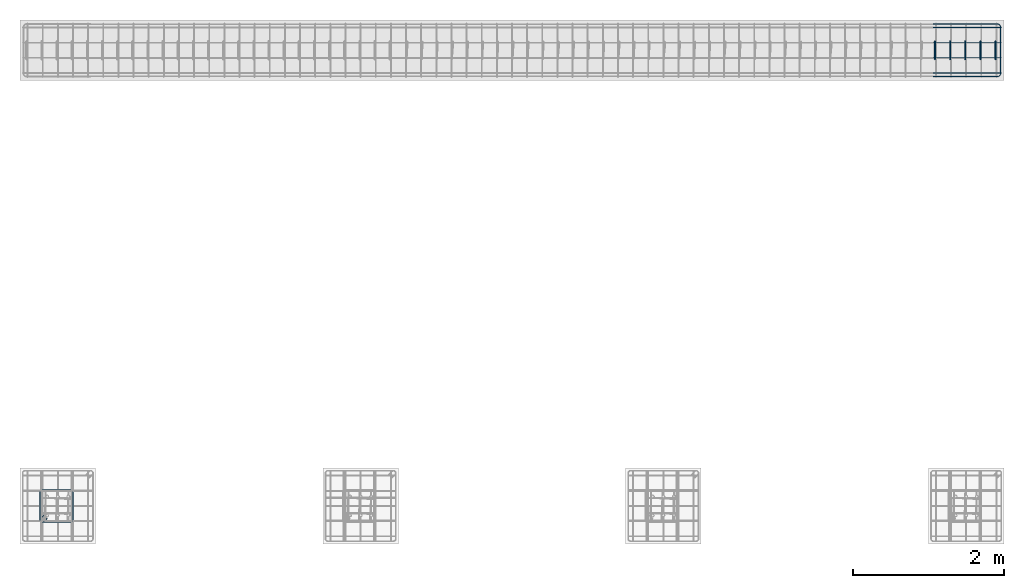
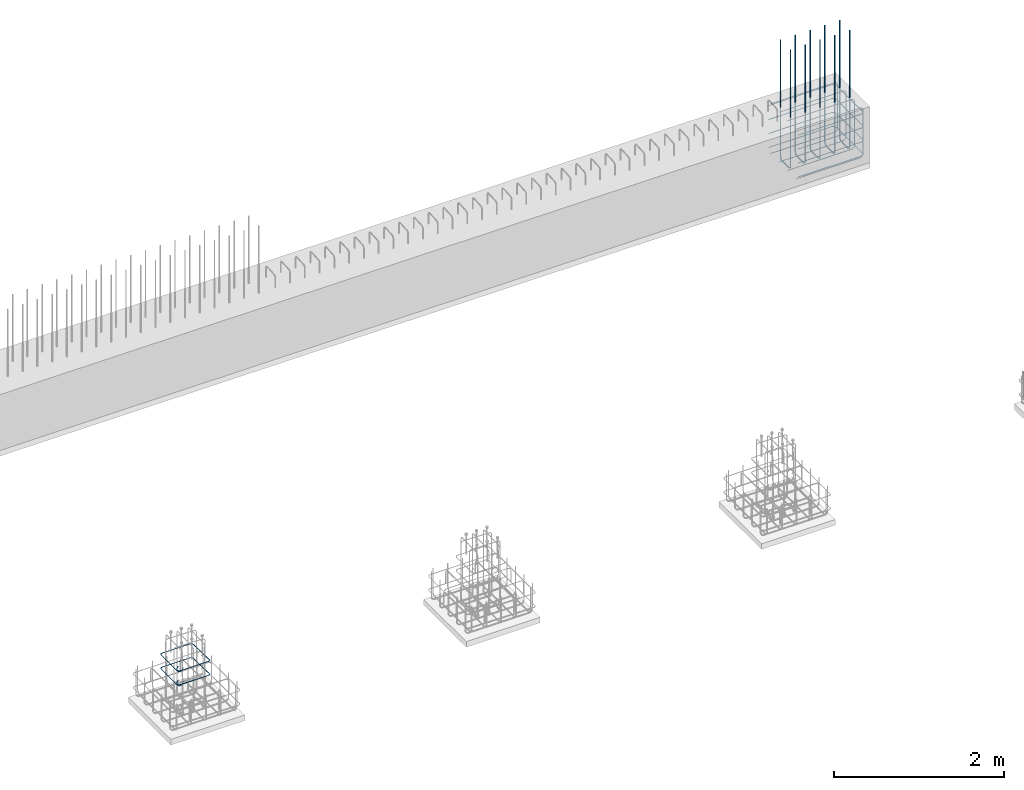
# One storey, part 11 of 12: 4 reinforcing bars.
"""IFC4X3_ADD2 building model written with IfcOpenShell, lengths in millimetres."""

from ifc_helpers import new_model, entity, si_unit, converted_unit, derived_unit, direction, frame, origin, place, context, subcontext, project, spatial, material, type_object, element, save


model = new_model("IFC4X3_ADD2")

# Units and contexts
model_context = context("Model", 3, precision=0.01, world=origin(), true_north=direction((6.123233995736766e-17, 1.0)))
plan_context = context("Plan", 3, precision=0.01, world=origin(), true_north=direction((6.123233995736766e-17, 1.0)))
body_context = subcontext(model_context, "Body", "Model", "MODEL_VIEW")
ifc_project = project(units=[si_unit("LENGTHUNIT", "METRE", prefix="MILLI"), converted_unit("PLANEANGLEUNIT", "DEGREE", entity("IfcPlaneAngleMeasure", 0.017453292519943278), si_unit("PLANEANGLEUNIT", "RADIAN"), dimensions=[0, 0, 0, 0, 0, 0, 0]), si_unit("AREAUNIT", "SQUARE_METRE"), si_unit("VOLUMEUNIT", "CUBIC_METRE"), derived_unit("THERMALTRANSMITTANCEUNIT", [(si_unit("MASSUNIT", "GRAM", prefix="KILO"), 1), (si_unit("THERMODYNAMICTEMPERATUREUNIT", "KELVIN"), -1), (si_unit("TIMEUNIT", "SECOND"), -3)]), derived_unit("USERDEFINED", [(si_unit("MASSUNIT", "GRAM", prefix="KILO"), 1), (si_unit("THERMODYNAMICTEMPERATUREUNIT", "KELVIN"), -1), (si_unit("TIMEUNIT", "SECOND"), -2)]), derived_unit("THERMALRESISTANCEUNIT", [(si_unit("MASSUNIT", "GRAM", prefix="KILO"), -1), (si_unit("TIMEUNIT", "SECOND"), 3), (si_unit("THERMODYNAMICTEMPERATUREUNIT", "KELVIN"), 1)]), si_unit("MASSUNIT", "GRAM", prefix="KILO"), derived_unit("MOMENTOFINERTIAUNIT", [(si_unit("LENGTHUNIT", "METRE"), 4)]), derived_unit("LINEARFORCEUNIT", [(si_unit("MASSUNIT", "GRAM", prefix="KILO"), 1), (si_unit("TIMEUNIT", "SECOND"), -2)]), derived_unit("WARPINGCONSTANTUNIT", [(si_unit("LENGTHUNIT", "METRE"), 6)]), si_unit("PRESSUREUNIT", "PASCAL"), derived_unit("MASSDENSITYUNIT", [(si_unit("MASSUNIT", "GRAM", prefix="KILO"), 1), (si_unit("LENGTHUNIT", "METRE"), -3)]), derived_unit("MODULUSOFELASTICITYUNIT", [(si_unit("MASSUNIT", "GRAM", prefix="KILO"), 1), (si_unit("TIMEUNIT", "SECOND"), -2), (si_unit("LENGTHUNIT", "METRE"), -1)]), derived_unit("THERMALEXPANSIONCOEFFICIENTUNIT", [(si_unit("THERMODYNAMICTEMPERATUREUNIT", "KELVIN"), -1)]), derived_unit("VAPORPERMEABILITYUNIT", [(si_unit("LENGTHUNIT", "METRE"), -1), (si_unit("TIMEUNIT", "SECOND"), 1)]), derived_unit("USERDEFINED", [(si_unit("MASSUNIT", "GRAM", prefix="KILO"), 1), (si_unit("TIMEUNIT", "SECOND"), -3), (si_unit("LENGTHUNIT", "METRE"), 3), (si_unit("ELECTRICCURRENTUNIT", "AMPERE"), -2)]), derived_unit("SPECIFICHEATCAPACITYUNIT", [(si_unit("THERMODYNAMICTEMPERATUREUNIT", "KELVIN"), -1), (si_unit("TIMEUNIT", "SECOND"), -2), (si_unit("LENGTHUNIT", "METRE"), 2)]), derived_unit("THERMALCONDUCTANCEUNIT", [(si_unit("MASSUNIT", "GRAM", prefix="KILO"), 1), (si_unit("THERMODYNAMICTEMPERATUREUNIT", "KELVIN"), -1), (si_unit("TIMEUNIT", "SECOND"), -3), (si_unit("LENGTHUNIT", "METRE"), 1)])], contexts=[model_context, plan_context])

# Site, building, storey
site_placement = place(None, origin())
site = spatial("IfcSite", under=ifc_project, at=site_placement, Name="Default", CompositionType="ELEMENT")
building_placement = place(site_placement, origin())
building = spatial("IfcBuilding", under=site, at=building_placement, Name="Complex structure", CompositionType="ELEMENT")
storey_placement = place(building_placement, frame((0.0, 0.0, -1200.0)))
storey = spatial("IfcBuildingStorey", under=building, at=storey_placement, Name="Level -03", CompositionType="ELEMENT", Elevation=-1200.0)

# Reinforcing bars
ifc_material = material(Name="Steel Rebar - B500A, B or C", Category="Unassigned")
reinforcing_bar_type_1 = type_object("IfcReinforcingBarType", Name="Rebar Bar:10mm", PredefinedType="NOTDEFINED")
reinforcing_bar_1_placement = place(storey_placement, origin())
ifc_direction_1 = entity("IfcDirection", [0.0, 0.0, -1.0])
ifc_direction_2 = entity("IfcDirection", [0.0, 0.0, -1.0])
element("IfcReinforcingBar", 1, at=reinforcing_bar_1_placement, inside=storey, type_object=reinforcing_bar_type_1, material=ifc_material, Name="Rebar Bar:10mm : Shape 52", ObjectType="Rebar Bar:10mm", context=body_context, shape_type="AdvancedSweptSolid", body=[
    entity("IfcSweptDiskSolid", entity("IfcCompositeCurve", [entity("IfcCompositeCurveSegment", "CONTINUOUS", True, entity("IfcPolyline", [entity("IfcCartesianPoint", [-13286.518887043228, -1446.6535005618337, 700.0]), entity("IfcCartesianPoint", [-13328.945293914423, -1489.0799074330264, 700.0])])), entity("IfcCompositeCurveSegment", "CONTINUOUS", True, entity("IfcTrimmedCurve", entity("IfcCircle", entity("IfcAxis2Placement3D", entity("IfcCartesianPoint", [-13350.15849735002, -1467.8667039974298, 700.0]), ifc_direction_1, entity("IfcDirection", [-0.7071067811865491, -0.7071067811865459, 0.0])), 30.000000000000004), [entity("IfcParameterValue", 269.9999999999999)], [entity("IfcParameterValue", 44.99999999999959)], True, "PARAMETER")), entity("IfcCompositeCurveSegment", "CONTINUOUS", True, entity("IfcPolyline", [entity("IfcCartesianPoint", [-13380.15849735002, -1467.8667039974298, 700.0]), entity("IfcCartesianPoint", [-13380.15849735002, -1097.8667039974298, 700.0])])), entity("IfcCompositeCurveSegment", "CONTINUOUS", True, entity("IfcTrimmedCurve", entity("IfcCircle", entity("IfcAxis2Placement3D", entity("IfcCartesianPoint", [-13350.15849735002, -1097.8667039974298, 700.0]), ifc_direction_1, entity("IfcDirection", [0.0, 1.0, 0.0])), 30.000000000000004), [entity("IfcParameterValue", 269.9999999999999)], [entity("IfcParameterValue", 360.00000000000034)], True, "PARAMETER")), entity("IfcCompositeCurveSegment", "CONTINUOUS", True, entity("IfcPolyline", [entity("IfcCartesianPoint", [-13350.15849735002, -1067.8667039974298, 700.0]), entity("IfcCartesianPoint", [-12976.521550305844, -1067.8667039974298, 700.0])])), entity("IfcCompositeCurveSegment", "CONTINUOUS", True, entity("IfcTrimmedCurve", entity("IfcCircle", entity("IfcAxis2Placement3D", entity("IfcCartesianPoint", [-12976.521550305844, -1097.8585947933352, 700.697485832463]), entity("IfcDirection", [0.0, -0.023249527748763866, -0.9997296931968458]), entity("IfcDirection", [1.0, 0.0, 0.0])), 30.000000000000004), [entity("IfcParameterValue", 269.9999999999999)], [entity("IfcParameterValue", 360.00000000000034)], True, "PARAMETER")), entity("IfcCompositeCurveSegment", "CONTINUOUS", True, entity("IfcPolyline", [entity("IfcCartesianPoint", [-12946.521550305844, -1097.8585947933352, 700.697485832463]), entity("IfcCartesianPoint", [-12946.521550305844, -1467.8748132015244, 709.3025141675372])])), entity("IfcCompositeCurveSegment", "CONTINUOUS", True, entity("IfcTrimmedCurve", entity("IfcCircle", entity("IfcAxis2Placement3D", entity("IfcCartesianPoint", [-12976.521550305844, -1467.8748132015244, 709.3025141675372]), entity("IfcDirection", [0.0, -0.023249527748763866, -0.9997296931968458]), entity("IfcDirection", [0.0, -0.9997296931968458, 0.023249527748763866])), 30.000000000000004), [entity("IfcParameterValue", 269.9999999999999)], [entity("IfcParameterValue", 360.00000000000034)], True, "PARAMETER")), entity("IfcCompositeCurveSegment", "CONTINUOUS", True, entity("IfcPolyline", [entity("IfcCartesianPoint", [-12976.521550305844, -1497.8667039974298, 710.0]), entity("IfcCartesianPoint", [-13350.15849735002, -1497.8667039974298, 710.0])])), entity("IfcCompositeCurveSegment", "CONTINUOUS", True, entity("IfcTrimmedCurve", entity("IfcCircle", entity("IfcAxis2Placement3D", entity("IfcCartesianPoint", [-13350.15849735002, -1467.8667039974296, 710.0]), ifc_direction_1, entity("IfcDirection", [-1.0, 0.0, 0.0])), 30.000000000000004), [entity("IfcParameterValue", 269.9999999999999)], [entity("IfcParameterValue", 44.99999999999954)], True, "PARAMETER")), entity("IfcCompositeCurveSegment", "CONTINUOUS", True, entity("IfcPolyline", [entity("IfcCartesianPoint", [-13371.371700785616, -1446.6535005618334, 710.0]), entity("IfcCartesianPoint", [-13328.945293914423, -1404.2270936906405, 710.0])]))], False), 5.0, None, 0.0, 546.0000000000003),
    entity("IfcSweptDiskSolid", entity("IfcCompositeCurve", [entity("IfcCompositeCurveSegment", "CONTINUOUS", True, entity("IfcPolyline", [entity("IfcCartesianPoint", [-13286.518887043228, -1446.6535005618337, 500.0]), entity("IfcCartesianPoint", [-13328.945293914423, -1489.0799074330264, 500.0])])), entity("IfcCompositeCurveSegment", "CONTINUOUS", True, entity("IfcTrimmedCurve", entity("IfcCircle", entity("IfcAxis2Placement3D", entity("IfcCartesianPoint", [-13350.15849735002, -1467.8667039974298, 500.0]), ifc_direction_2, entity("IfcDirection", [-0.7071067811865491, -0.7071067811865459, 0.0])), 30.000000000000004), [entity("IfcParameterValue", 269.9999999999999)], [entity("IfcParameterValue", 44.99999999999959)], True, "PARAMETER")), entity("IfcCompositeCurveSegment", "CONTINUOUS", True, entity("IfcPolyline", [entity("IfcCartesianPoint", [-13380.15849735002, -1467.8667039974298, 500.0]), entity("IfcCartesianPoint", [-13380.15849735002, -1097.8667039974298, 500.0])])), entity("IfcCompositeCurveSegment", "CONTINUOUS", True, entity("IfcTrimmedCurve", entity("IfcCircle", entity("IfcAxis2Placement3D", entity("IfcCartesianPoint", [-13350.15849735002, -1097.8667039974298, 500.0]), ifc_direction_2, entity("IfcDirection", [0.0, 1.0, 0.0])), 30.000000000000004), [entity("IfcParameterValue", 269.9999999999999)], [entity("IfcParameterValue", 360.00000000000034)], True, "PARAMETER")), entity("IfcCompositeCurveSegment", "CONTINUOUS", True, entity("IfcPolyline", [entity("IfcCartesianPoint", [-13350.15849735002, -1067.8667039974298, 500.0]), entity("IfcCartesianPoint", [-12976.521550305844, -1067.8667039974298, 500.0])])), entity("IfcCompositeCurveSegment", "CONTINUOUS", True, entity("IfcTrimmedCurve", entity("IfcCircle", entity("IfcAxis2Placement3D", entity("IfcCartesianPoint", [-12976.521550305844, -1097.8585947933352, 500.69748583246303]), entity("IfcDirection", [0.0, -0.023249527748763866, -0.9997296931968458]), entity("IfcDirection", [1.0, 0.0, 0.0])), 30.000000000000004), [entity("IfcParameterValue", 269.9999999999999)], [entity("IfcParameterValue", 360.00000000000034)], True, "PARAMETER")), entity("IfcCompositeCurveSegment", "CONTINUOUS", True, entity("IfcPolyline", [entity("IfcCartesianPoint", [-12946.521550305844, -1097.8585947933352, 500.69748583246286]), entity("IfcCartesianPoint", [-12946.521550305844, -1467.8748132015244, 509.3025141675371])])), entity("IfcCompositeCurveSegment", "CONTINUOUS", True, entity("IfcTrimmedCurve", entity("IfcCircle", entity("IfcAxis2Placement3D", entity("IfcCartesianPoint", [-12976.521550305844, -1467.8748132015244, 509.3025141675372]), entity("IfcDirection", [0.0, -0.023249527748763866, -0.9997296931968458]), entity("IfcDirection", [0.0, -0.9997296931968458, 0.023249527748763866])), 30.000000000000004), [entity("IfcParameterValue", 269.9999999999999)], [entity("IfcParameterValue", 360.00000000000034)], True, "PARAMETER")), entity("IfcCompositeCurveSegment", "CONTINUOUS", True, entity("IfcPolyline", [entity("IfcCartesianPoint", [-12976.521550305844, -1497.8667039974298, 510.0]), entity("IfcCartesianPoint", [-13350.15849735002, -1497.8667039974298, 510.0])])), entity("IfcCompositeCurveSegment", "CONTINUOUS", True, entity("IfcTrimmedCurve", entity("IfcCircle", entity("IfcAxis2Placement3D", entity("IfcCartesianPoint", [-13350.15849735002, -1467.8667039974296, 510.0]), ifc_direction_2, entity("IfcDirection", [-1.0, 0.0, 0.0])), 30.000000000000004), [entity("IfcParameterValue", 269.9999999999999)], [entity("IfcParameterValue", 44.99999999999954)], True, "PARAMETER")), entity("IfcCompositeCurveSegment", "CONTINUOUS", True, entity("IfcPolyline", [entity("IfcCartesianPoint", [-13371.371700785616, -1446.6535005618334, 510.0]), entity("IfcCartesianPoint", [-13328.945293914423, -1404.2270936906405, 510.0])]))], False), 5.0, None, 0.0, 546.0000000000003),
])
reinforcing_bar_2_placement = place(storey_placement, origin())
ifc_direction_3 = entity("IfcDirection", [0.0, -1.0, 0.0])
ifc_direction_4 = entity("IfcDirection", [0.0, -1.0, 0.0])
ifc_direction_5 = entity("IfcDirection", [0.0, -1.0, 0.0])
ifc_direction_6 = entity("IfcDirection", [0.0, -1.0, 0.0])
element("IfcReinforcingBar", 2, at=reinforcing_bar_2_placement, inside=storey, type_object=reinforcing_bar_type_1, material=ifc_material, Name="Rebar Bar:10mm : Shape 21", ObjectType="Rebar Bar:10mm", context=body_context, shape_type="AdvancedSweptSolid", body=[
    entity("IfcSweptDiskSolid", entity("IfcCompositeCurve", [entity("IfcCompositeCurveSegment", "CONTINUOUS", True, entity("IfcPolyline", [entity("IfcCartesianPoint", [-1585.2215503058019, 5037.133296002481, 33.12656114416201]), entity("IfcCartesianPoint", [-725.2215503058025, 5037.133296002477, 33.12656114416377])])), entity("IfcCompositeCurveSegment", "CONTINUOUS", True, entity("IfcTrimmedCurve", entity("IfcCircle", entity("IfcAxis2Placement3D", entity("IfcCartesianPoint", [-725.2215503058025, 5037.133296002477, 78.12656114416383]), ifc_direction_3, entity("IfcDirection", [1.0, 0.0, 0.0])), 45.0), [entity("IfcParameterValue", 269.9999999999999)], [entity("IfcParameterValue", 360.00000000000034)], True, "PARAMETER")), entity("IfcCompositeCurveSegment", "CONTINUOUS", True, entity("IfcPolyline", [entity("IfcCartesianPoint", [-680.2215503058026, 5037.133296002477, 78.12656114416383]), entity("IfcCartesianPoint", [-680.2215503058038, 5037.1332960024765, 700.0])])), entity("IfcCompositeCurveSegment", "CONTINUOUS", True, entity("IfcTrimmedCurve", entity("IfcCircle", entity("IfcAxis2Placement3D", entity("IfcCartesianPoint", [-725.2215503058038, 5037.1332960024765, 700.0]), ifc_direction_3, entity("IfcDirection", [0.0, 0.0, 1.0])), 45.0), [entity("IfcParameterValue", 269.9999999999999)], [entity("IfcParameterValue", 360.00000000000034)], True, "PARAMETER")), entity("IfcCompositeCurveSegment", "CONTINUOUS", True, entity("IfcPolyline", [entity("IfcCartesianPoint", [-725.2215503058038, 5037.1332960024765, 745.0]), entity("IfcCartesianPoint", [-1585.2215503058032, 5037.13329600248, 745.0])]))], False), 5.0, None, 0.0, 183.00000000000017),
    entity("IfcSweptDiskSolid", entity("IfcCompositeCurve", [entity("IfcCompositeCurveSegment", "CONTINUOUS", True, entity("IfcPolyline", [entity("IfcCartesianPoint", [-1585.221550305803, 4837.133296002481, 33.126561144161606]), entity("IfcCartesianPoint", [-725.2215503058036, 4837.133296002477, 33.12656114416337])])), entity("IfcCompositeCurveSegment", "CONTINUOUS", True, entity("IfcTrimmedCurve", entity("IfcCircle", entity("IfcAxis2Placement3D", entity("IfcCartesianPoint", [-725.2215503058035, 4837.133296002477, 78.12656114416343]), ifc_direction_4, entity("IfcDirection", [1.0, 0.0, 0.0])), 45.0), [entity("IfcParameterValue", 269.9999999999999)], [entity("IfcParameterValue", 360.00000000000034)], True, "PARAMETER")), entity("IfcCompositeCurveSegment", "CONTINUOUS", True, entity("IfcPolyline", [entity("IfcCartesianPoint", [-680.2215503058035, 4837.133296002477, 78.12656114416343]), entity("IfcCartesianPoint", [-680.2215503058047, 4837.1332960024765, 700.0])])), entity("IfcCompositeCurveSegment", "CONTINUOUS", True, entity("IfcTrimmedCurve", entity("IfcCircle", entity("IfcAxis2Placement3D", entity("IfcCartesianPoint", [-725.2215503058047, 4837.1332960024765, 700.0]), ifc_direction_4, entity("IfcDirection", [0.0, 0.0, 1.0])), 45.0), [entity("IfcParameterValue", 269.9999999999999)], [entity("IfcParameterValue", 360.00000000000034)], True, "PARAMETER")), entity("IfcCompositeCurveSegment", "CONTINUOUS", True, entity("IfcPolyline", [entity("IfcCartesianPoint", [-725.2215503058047, 4837.1332960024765, 745.0]), entity("IfcCartesianPoint", [-1585.2215503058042, 4837.13329600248, 745.0])]))], False), 5.0, None, 0.0, 183.00000000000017),
    entity("IfcSweptDiskSolid", entity("IfcCompositeCurve", [entity("IfcCompositeCurveSegment", "CONTINUOUS", True, entity("IfcPolyline", [entity("IfcCartesianPoint", [-1585.2215503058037, 4637.133296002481, 33.1265611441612]), entity("IfcCartesianPoint", [-725.2215503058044, 4637.133296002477, 33.12656114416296])])), entity("IfcCompositeCurveSegment", "CONTINUOUS", True, entity("IfcTrimmedCurve", entity("IfcCircle", entity("IfcAxis2Placement3D", entity("IfcCartesianPoint", [-725.2215503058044, 4637.133296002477, 78.12656114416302]), ifc_direction_5, entity("IfcDirection", [1.0, 0.0, 0.0])), 45.0), [entity("IfcParameterValue", 269.9999999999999)], [entity("IfcParameterValue", 360.00000000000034)], True, "PARAMETER")), entity("IfcCompositeCurveSegment", "CONTINUOUS", True, entity("IfcPolyline", [entity("IfcCartesianPoint", [-680.2215503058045, 4637.133296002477, 78.12656114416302]), entity("IfcCartesianPoint", [-680.2215503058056, 4637.133296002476, 700.0])])), entity("IfcCompositeCurveSegment", "CONTINUOUS", True, entity("IfcTrimmedCurve", entity("IfcCircle", entity("IfcAxis2Placement3D", entity("IfcCartesianPoint", [-725.2215503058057, 4637.133296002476, 700.0]), ifc_direction_5, entity("IfcDirection", [0.0, 0.0, 1.0])), 45.0), [entity("IfcParameterValue", 269.9999999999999)], [entity("IfcParameterValue", 360.00000000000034)], True, "PARAMETER")), entity("IfcCompositeCurveSegment", "CONTINUOUS", True, entity("IfcPolyline", [entity("IfcCartesianPoint", [-725.2215503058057, 4637.133296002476, 745.0]), entity("IfcCartesianPoint", [-1585.221550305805, 4637.13329600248, 745.0])]))], False), 5.0, None, 0.0, 183.00000000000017),
    entity("IfcSweptDiskSolid", entity("IfcCompositeCurve", [entity("IfcCompositeCurveSegment", "CONTINUOUS", True, entity("IfcPolyline", [entity("IfcCartesianPoint", [-1585.2215503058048, 4437.133296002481, 33.12656114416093]), entity("IfcCartesianPoint", [-725.2215503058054, 4437.133296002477, 33.12656114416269])])), entity("IfcCompositeCurveSegment", "CONTINUOUS", True, entity("IfcTrimmedCurve", entity("IfcCircle", entity("IfcAxis2Placement3D", entity("IfcCartesianPoint", [-725.2215503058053, 4437.133296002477, 78.12656114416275]), ifc_direction_6, entity("IfcDirection", [1.0, 0.0, 0.0])), 45.0), [entity("IfcParameterValue", 269.9999999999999)], [entity("IfcParameterValue", 360.00000000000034)], True, "PARAMETER")), entity("IfcCompositeCurveSegment", "CONTINUOUS", True, entity("IfcPolyline", [entity("IfcCartesianPoint", [-680.2215503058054, 4437.133296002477, 78.12656114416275]), entity("IfcCartesianPoint", [-680.2215503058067, 4437.133296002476, 700.0])])), entity("IfcCompositeCurveSegment", "CONTINUOUS", True, entity("IfcTrimmedCurve", entity("IfcCircle", entity("IfcAxis2Placement3D", entity("IfcCartesianPoint", [-725.2215503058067, 4437.133296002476, 700.0]), ifc_direction_6, entity("IfcDirection", [0.0, 0.0, 1.0])), 45.0), [entity("IfcParameterValue", 269.9999999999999)], [entity("IfcParameterValue", 360.00000000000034)], True, "PARAMETER")), entity("IfcCompositeCurveSegment", "CONTINUOUS", True, entity("IfcPolyline", [entity("IfcCartesianPoint", [-725.2215503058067, 4437.133296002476, 745.0]), entity("IfcCartesianPoint", [-1585.2215503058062, 4437.13329600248, 745.0])]))], False), 5.0, None, 0.0, 183.00000000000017),
])
reinforcing_bar_3_placement = place(storey_placement, origin())
ifc_direction_7 = entity("IfcDirection", [0.0, 0.0, -1.0])
ifc_direction_8 = entity("IfcDirection", [0.0, 0.0, -1.0])
ifc_direction_9 = entity("IfcDirection", [0.0, 0.0, -1.0])
ifc_direction_10 = entity("IfcDirection", [0.0, 0.0, -1.0])
element("IfcReinforcingBar", 3, at=reinforcing_bar_3_placement, inside=storey, type_object=reinforcing_bar_type_1, material=ifc_material, Name="Rebar Bar:10mm : Shape 21", ObjectType="Rebar Bar:10mm", context=body_context, shape_type="AdvancedSweptSolid", body=[
    entity("IfcSweptDiskSolid", entity("IfcCompositeCurve", [entity("IfcCompositeCurveSegment", "CONTINUOUS", True, entity("IfcPolyline", [entity("IfcCartesianPoint", [-1585.2215503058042, 5085.133296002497, 690.0]), entity("IfcCartesianPoint", [-735.2215503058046, 5085.133296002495, 690.0])])), entity("IfcCompositeCurveSegment", "CONTINUOUS", True, entity("IfcTrimmedCurve", entity("IfcCircle", entity("IfcAxis2Placement3D", entity("IfcCartesianPoint", [-735.221550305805, 5040.133296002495, 690.0]), ifc_direction_7, entity("IfcDirection", [1.0, 0.0, 0.0])), 45.0), [entity("IfcParameterValue", 269.9999999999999)], [entity("IfcParameterValue", 360.00000000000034)], True, "PARAMETER")), entity("IfcCompositeCurveSegment", "CONTINUOUS", True, entity("IfcPolyline", [entity("IfcCartesianPoint", [-690.2215503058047, 5040.133296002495, 690.0]), entity("IfcCartesianPoint", [-690.2215503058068, 4434.133296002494, 690.0])])), entity("IfcCompositeCurveSegment", "CONTINUOUS", True, entity("IfcTrimmedCurve", entity("IfcCircle", entity("IfcAxis2Placement3D", entity("IfcCartesianPoint", [-735.2215503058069, 4434.133296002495, 690.0]), ifc_direction_7, entity("IfcDirection", [0.0, -1.0, 0.0])), 45.0), [entity("IfcParameterValue", 269.9999999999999)], [entity("IfcParameterValue", 360.00000000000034)], True, "PARAMETER")), entity("IfcCompositeCurveSegment", "CONTINUOUS", True, entity("IfcPolyline", [entity("IfcCartesianPoint", [-735.2215503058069, 4389.133296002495, 690.0]), entity("IfcCartesianPoint", [-1585.2215503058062, 4389.133296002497, 690.0])]))], False), 5.0, None, 0.0, 183.00000000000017),
    entity("IfcSweptDiskSolid", entity("IfcCompositeCurve", [entity("IfcCompositeCurveSegment", "CONTINUOUS", True, entity("IfcPolyline", [entity("IfcCartesianPoint", [-1585.2215503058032, 5085.133296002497, 490.0]), entity("IfcCartesianPoint", [-735.2215503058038, 5085.133296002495, 490.0])])), entity("IfcCompositeCurveSegment", "CONTINUOUS", True, entity("IfcTrimmedCurve", entity("IfcCircle", entity("IfcAxis2Placement3D", entity("IfcCartesianPoint", [-735.2215503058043, 5040.133296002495, 490.0]), ifc_direction_8, entity("IfcDirection", [1.0, 0.0, 0.0])), 45.0), [entity("IfcParameterValue", 269.9999999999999)], [entity("IfcParameterValue", 360.00000000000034)], True, "PARAMETER")), entity("IfcCompositeCurveSegment", "CONTINUOUS", True, entity("IfcPolyline", [entity("IfcCartesianPoint", [-690.221550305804, 5040.133296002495, 490.0]), entity("IfcCartesianPoint", [-690.2215503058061, 4434.133296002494, 490.0])])), entity("IfcCompositeCurveSegment", "CONTINUOUS", True, entity("IfcTrimmedCurve", entity("IfcCircle", entity("IfcAxis2Placement3D", entity("IfcCartesianPoint", [-735.2215503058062, 4434.133296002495, 490.0]), ifc_direction_8, entity("IfcDirection", [0.0, -1.0, 0.0])), 45.0), [entity("IfcParameterValue", 269.9999999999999)], [entity("IfcParameterValue", 360.00000000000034)], True, "PARAMETER")), entity("IfcCompositeCurveSegment", "CONTINUOUS", True, entity("IfcPolyline", [entity("IfcCartesianPoint", [-735.2215503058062, 4389.133296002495, 490.0]), entity("IfcCartesianPoint", [-1585.2215503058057, 4389.133296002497, 490.0])]))], False), 5.0, None, 0.0, 183.00000000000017),
    entity("IfcSweptDiskSolid", entity("IfcCompositeCurve", [entity("IfcCompositeCurveSegment", "CONTINUOUS", True, entity("IfcPolyline", [entity("IfcCartesianPoint", [-1585.2215503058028, 5085.133296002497, 290.0]), entity("IfcCartesianPoint", [-735.2215503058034, 5085.133296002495, 290.0])])), entity("IfcCompositeCurveSegment", "CONTINUOUS", True, entity("IfcTrimmedCurve", entity("IfcCircle", entity("IfcAxis2Placement3D", entity("IfcCartesianPoint", [-735.2215503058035, 5040.133296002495, 290.0]), ifc_direction_9, entity("IfcDirection", [1.0, 0.0, 0.0])), 45.0), [entity("IfcParameterValue", 269.9999999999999)], [entity("IfcParameterValue", 360.00000000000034)], True, "PARAMETER")), entity("IfcCompositeCurveSegment", "CONTINUOUS", True, entity("IfcPolyline", [entity("IfcCartesianPoint", [-690.2215503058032, 5040.133296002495, 290.0]), entity("IfcCartesianPoint", [-690.2215503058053, 4434.133296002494, 290.0])])), entity("IfcCompositeCurveSegment", "CONTINUOUS", True, entity("IfcTrimmedCurve", entity("IfcCircle", entity("IfcAxis2Placement3D", entity("IfcCartesianPoint", [-735.2215503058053, 4434.133296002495, 290.0]), ifc_direction_9, entity("IfcDirection", [0.0, -1.0, 0.0])), 45.0), [entity("IfcParameterValue", 269.9999999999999)], [entity("IfcParameterValue", 360.00000000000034)], True, "PARAMETER")), entity("IfcCompositeCurveSegment", "CONTINUOUS", True, entity("IfcPolyline", [entity("IfcCartesianPoint", [-735.2215503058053, 4389.133296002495, 290.0]), entity("IfcCartesianPoint", [-1585.2215503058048, 4389.133296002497, 290.0])]))], False), 5.0, None, 0.0, 183.00000000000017),
    entity("IfcSweptDiskSolid", entity("IfcCompositeCurve", [entity("IfcCompositeCurveSegment", "CONTINUOUS", True, entity("IfcPolyline", [entity("IfcCartesianPoint", [-1585.2215503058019, 5085.133296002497, 90.0]), entity("IfcCartesianPoint", [-735.2215503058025, 5085.133296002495, 90.0])])), entity("IfcCompositeCurveSegment", "CONTINUOUS", True, entity("IfcTrimmedCurve", entity("IfcCircle", entity("IfcAxis2Placement3D", entity("IfcCartesianPoint", [-735.2215503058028, 5040.133296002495, 90.0]), ifc_direction_10, entity("IfcDirection", [1.0, 0.0, 0.0])), 45.0), [entity("IfcParameterValue", 269.9999999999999)], [entity("IfcParameterValue", 360.00000000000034)], True, "PARAMETER")), entity("IfcCompositeCurveSegment", "CONTINUOUS", True, entity("IfcPolyline", [entity("IfcCartesianPoint", [-690.2215503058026, 5040.133296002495, 90.0]), entity("IfcCartesianPoint", [-690.2215503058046, 4434.133296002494, 90.0])])), entity("IfcCompositeCurveSegment", "CONTINUOUS", True, entity("IfcTrimmedCurve", entity("IfcCircle", entity("IfcAxis2Placement3D", entity("IfcCartesianPoint", [-735.2215503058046, 4434.133296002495, 90.0]), ifc_direction_10, entity("IfcDirection", [0.0, -1.0, 0.0])), 45.0), [entity("IfcParameterValue", 269.9999999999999)], [entity("IfcParameterValue", 360.00000000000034)], True, "PARAMETER")), entity("IfcCompositeCurveSegment", "CONTINUOUS", True, entity("IfcPolyline", [entity("IfcCartesianPoint", [-735.2215503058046, 4389.133296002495, 90.0]), entity("IfcCartesianPoint", [-1585.2215503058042, 4389.133296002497, 90.0])]))], False), 5.0, None, 0.0, 183.00000000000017),
])
reinforcing_bar_type_2 = type_object("IfcReinforcingBarType", Name="Rebar Bar:16mm", PredefinedType="NOTDEFINED")
reinforcing_bar_4_placement = place(storey_placement, origin())
ifc_direction_11 = entity("IfcDirection", [1.0, 0.0, 0.0])
ifc_direction_12 = entity("IfcDirection", [1.0, 0.0, 0.0])
ifc_direction_13 = entity("IfcDirection", [1.0, 0.0, 0.0])
ifc_direction_14 = entity("IfcDirection", [1.0, 0.0, 0.0])
ifc_direction_15 = entity("IfcDirection", [1.0, 0.0, 0.0])
element("IfcReinforcingBar", 4, at=reinforcing_bar_4_placement, inside=storey, type_object=reinforcing_bar_type_2, material=ifc_material, Name="Rebar Bar:16mm : Shape 21", ObjectType="Rebar Bar:16mm", context=body_context, shape_type="AdvancedSweptSolid", body=[
    entity("IfcSweptDiskSolid", entity("IfcCompositeCurve", [entity("IfcCompositeCurveSegment", "CONTINUOUS", True, entity("IfcPolyline", [entity("IfcCartesianPoint", [-1556.2215503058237, 4620.133296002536, 1760.0]), entity("IfcCartesianPoint", [-1556.2215503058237, 4620.133296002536, 96.0])])), entity("IfcCompositeCurveSegment", "CONTINUOUS", True, entity("IfcTrimmedCurve", entity("IfcCircle", entity("IfcAxis2Placement3D", entity("IfcCartesianPoint", [-1556.2215503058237, 4668.133296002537, 96.0]), ifc_direction_11, entity("IfcDirection", [0.0, 0.0, -1.0])), 48.0), [entity("IfcParameterValue", 269.9999999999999)], [entity("IfcParameterValue", 360.00000000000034)], True, "PARAMETER")), entity("IfcCompositeCurveSegment", "CONTINUOUS", True, entity("IfcPolyline", [entity("IfcCartesianPoint", [-1556.2215503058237, 4668.133296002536, 48.0]), entity("IfcCartesianPoint", [-1556.2215503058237, 4806.133296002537, 48.0])])), entity("IfcCompositeCurveSegment", "CONTINUOUS", True, entity("IfcTrimmedCurve", entity("IfcCircle", entity("IfcAxis2Placement3D", entity("IfcCartesianPoint", [-1556.2215503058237, 4806.133296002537, 96.0]), ifc_direction_11, entity("IfcDirection", [0.0, 1.0, 0.0])), 48.0), [entity("IfcParameterValue", 269.9999999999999)], [entity("IfcParameterValue", 360.00000000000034)], True, "PARAMETER")), entity("IfcCompositeCurveSegment", "CONTINUOUS", True, entity("IfcPolyline", [entity("IfcCartesianPoint", [-1556.2215503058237, 4854.133296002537, 96.0]), entity("IfcCartesianPoint", [-1556.2215503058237, 4854.133296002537, 1760.0])]))], False), 8.0, None, 0.0, 183.00000000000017),
    entity("IfcSweptDiskSolid", entity("IfcCompositeCurve", [entity("IfcCompositeCurveSegment", "CONTINUOUS", True, entity("IfcPolyline", [entity("IfcCartesianPoint", [-1356.2215503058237, 4620.133296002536, 1760.0]), entity("IfcCartesianPoint", [-1356.2215503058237, 4620.133296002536, 96.0])])), entity("IfcCompositeCurveSegment", "CONTINUOUS", True, entity("IfcTrimmedCurve", entity("IfcCircle", entity("IfcAxis2Placement3D", entity("IfcCartesianPoint", [-1356.2215503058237, 4668.133296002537, 96.0]), ifc_direction_12, entity("IfcDirection", [0.0, 0.0, -1.0])), 48.0), [entity("IfcParameterValue", 269.9999999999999)], [entity("IfcParameterValue", 360.00000000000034)], True, "PARAMETER")), entity("IfcCompositeCurveSegment", "CONTINUOUS", True, entity("IfcPolyline", [entity("IfcCartesianPoint", [-1356.2215503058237, 4668.133296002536, 48.0]), entity("IfcCartesianPoint", [-1356.2215503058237, 4806.133296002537, 48.0])])), entity("IfcCompositeCurveSegment", "CONTINUOUS", True, entity("IfcTrimmedCurve", entity("IfcCircle", entity("IfcAxis2Placement3D", entity("IfcCartesianPoint", [-1356.2215503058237, 4806.133296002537, 96.0]), ifc_direction_12, entity("IfcDirection", [0.0, 1.0, 0.0])), 48.0), [entity("IfcParameterValue", 269.9999999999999)], [entity("IfcParameterValue", 360.00000000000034)], True, "PARAMETER")), entity("IfcCompositeCurveSegment", "CONTINUOUS", True, entity("IfcPolyline", [entity("IfcCartesianPoint", [-1356.2215503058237, 4854.133296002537, 96.0]), entity("IfcCartesianPoint", [-1356.2215503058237, 4854.133296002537, 1760.0])]))], False), 8.0, None, 0.0, 183.00000000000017),
    entity("IfcSweptDiskSolid", entity("IfcCompositeCurve", [entity("IfcCompositeCurveSegment", "CONTINUOUS", True, entity("IfcPolyline", [entity("IfcCartesianPoint", [-1156.2215503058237, 4620.133296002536, 1760.0]), entity("IfcCartesianPoint", [-1156.2215503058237, 4620.133296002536, 96.0])])), entity("IfcCompositeCurveSegment", "CONTINUOUS", True, entity("IfcTrimmedCurve", entity("IfcCircle", entity("IfcAxis2Placement3D", entity("IfcCartesianPoint", [-1156.2215503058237, 4668.133296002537, 96.0]), ifc_direction_13, entity("IfcDirection", [0.0, 0.0, -1.0])), 48.0), [entity("IfcParameterValue", 269.9999999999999)], [entity("IfcParameterValue", 360.00000000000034)], True, "PARAMETER")), entity("IfcCompositeCurveSegment", "CONTINUOUS", True, entity("IfcPolyline", [entity("IfcCartesianPoint", [-1156.2215503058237, 4668.133296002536, 48.0]), entity("IfcCartesianPoint", [-1156.2215503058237, 4806.133296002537, 48.0])])), entity("IfcCompositeCurveSegment", "CONTINUOUS", True, entity("IfcTrimmedCurve", entity("IfcCircle", entity("IfcAxis2Placement3D", entity("IfcCartesianPoint", [-1156.2215503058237, 4806.133296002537, 96.0]), ifc_direction_13, entity("IfcDirection", [0.0, 1.0, 0.0])), 48.0), [entity("IfcParameterValue", 269.9999999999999)], [entity("IfcParameterValue", 360.00000000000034)], True, "PARAMETER")), entity("IfcCompositeCurveSegment", "CONTINUOUS", True, entity("IfcPolyline", [entity("IfcCartesianPoint", [-1156.2215503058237, 4854.133296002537, 96.0]), entity("IfcCartesianPoint", [-1156.2215503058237, 4854.133296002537, 1760.0])]))], False), 8.0, None, 0.0, 183.00000000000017),
    entity("IfcSweptDiskSolid", entity("IfcCompositeCurve", [entity("IfcCompositeCurveSegment", "CONTINUOUS", True, entity("IfcPolyline", [entity("IfcCartesianPoint", [-956.2215503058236, 4620.133296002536, 1760.0]), entity("IfcCartesianPoint", [-956.2215503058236, 4620.133296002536, 96.0])])), entity("IfcCompositeCurveSegment", "CONTINUOUS", True, entity("IfcTrimmedCurve", entity("IfcCircle", entity("IfcAxis2Placement3D", entity("IfcCartesianPoint", [-956.2215503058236, 4668.133296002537, 96.0]), ifc_direction_14, entity("IfcDirection", [0.0, 0.0, -1.0])), 48.0), [entity("IfcParameterValue", 269.9999999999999)], [entity("IfcParameterValue", 360.00000000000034)], True, "PARAMETER")), entity("IfcCompositeCurveSegment", "CONTINUOUS", True, entity("IfcPolyline", [entity("IfcCartesianPoint", [-956.2215503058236, 4668.133296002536, 48.0]), entity("IfcCartesianPoint", [-956.2215503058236, 4806.133296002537, 48.0])])), entity("IfcCompositeCurveSegment", "CONTINUOUS", True, entity("IfcTrimmedCurve", entity("IfcCircle", entity("IfcAxis2Placement3D", entity("IfcCartesianPoint", [-956.2215503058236, 4806.133296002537, 96.0]), ifc_direction_14, entity("IfcDirection", [0.0, 1.0, 0.0])), 48.0), [entity("IfcParameterValue", 269.9999999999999)], [entity("IfcParameterValue", 360.00000000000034)], True, "PARAMETER")), entity("IfcCompositeCurveSegment", "CONTINUOUS", True, entity("IfcPolyline", [entity("IfcCartesianPoint", [-956.2215503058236, 4854.133296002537, 96.0]), entity("IfcCartesianPoint", [-956.2215503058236, 4854.133296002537, 1760.0])]))], False), 8.0, None, 0.0, 183.00000000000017),
    entity("IfcSweptDiskSolid", entity("IfcCompositeCurve", [entity("IfcCompositeCurveSegment", "CONTINUOUS", True, entity("IfcPolyline", [entity("IfcCartesianPoint", [-756.2215503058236, 4620.133296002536, 1760.0]), entity("IfcCartesianPoint", [-756.2215503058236, 4620.133296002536, 96.0])])), entity("IfcCompositeCurveSegment", "CONTINUOUS", True, entity("IfcTrimmedCurve", entity("IfcCircle", entity("IfcAxis2Placement3D", entity("IfcCartesianPoint", [-756.2215503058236, 4668.133296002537, 96.0]), ifc_direction_15, entity("IfcDirection", [0.0, 0.0, -1.0])), 48.0), [entity("IfcParameterValue", 269.9999999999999)], [entity("IfcParameterValue", 360.00000000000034)], True, "PARAMETER")), entity("IfcCompositeCurveSegment", "CONTINUOUS", True, entity("IfcPolyline", [entity("IfcCartesianPoint", [-756.2215503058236, 4668.133296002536, 48.0]), entity("IfcCartesianPoint", [-756.2215503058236, 4806.133296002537, 48.0])])), entity("IfcCompositeCurveSegment", "CONTINUOUS", True, entity("IfcTrimmedCurve", entity("IfcCircle", entity("IfcAxis2Placement3D", entity("IfcCartesianPoint", [-756.2215503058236, 4806.133296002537, 96.0]), ifc_direction_15, entity("IfcDirection", [0.0, 1.0, 0.0])), 48.0), [entity("IfcParameterValue", 269.9999999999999)], [entity("IfcParameterValue", 360.00000000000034)], True, "PARAMETER")), entity("IfcCompositeCurveSegment", "CONTINUOUS", True, entity("IfcPolyline", [entity("IfcCartesianPoint", [-756.2215503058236, 4854.133296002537, 96.0]), entity("IfcCartesianPoint", [-756.2215503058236, 4854.133296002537, 1760.0])]))], False), 8.0, None, 0.0, 183.00000000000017),
])

save(model, "model.ifc")
